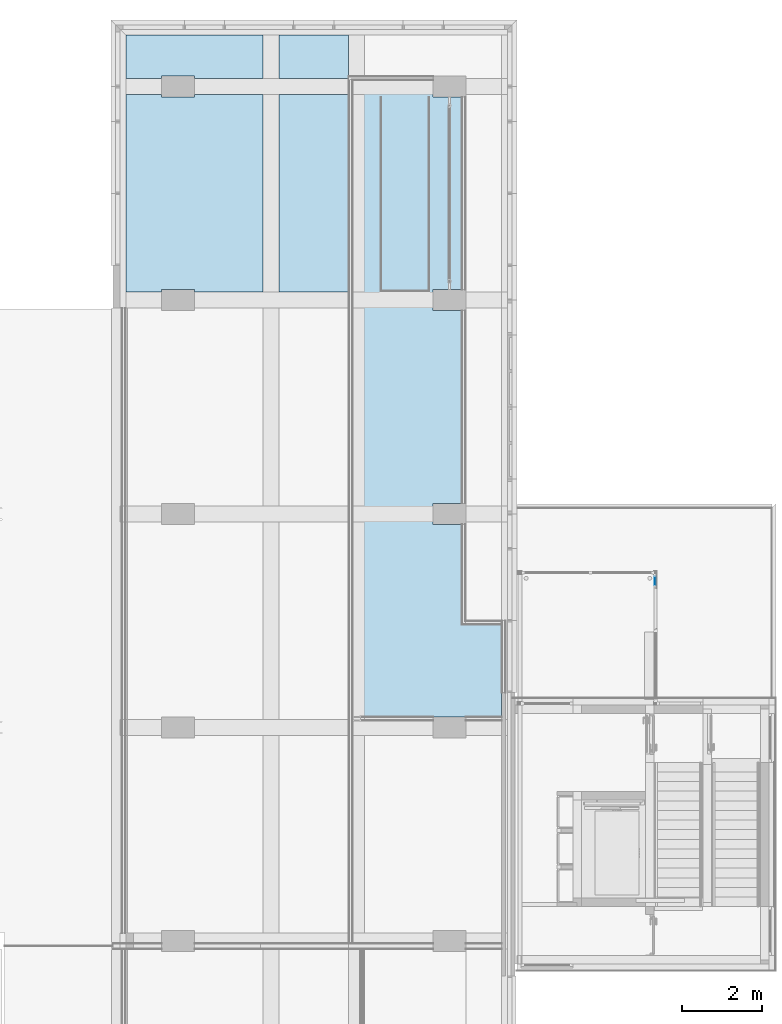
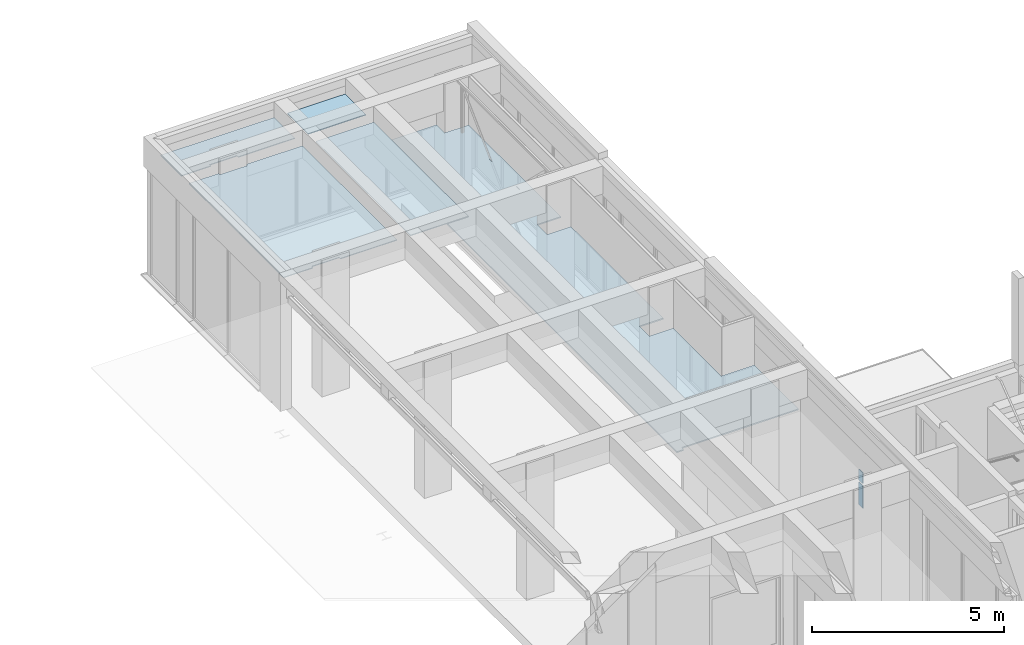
# One storey, part 36 of 117: 5 slabs, 2 plates, 1 element without a shape of its own.
"""IFC2X3 building model written with IfcOpenShell, lengths in millimetres."""

from ifc_helpers import new_model, entity, si_unit, converted_unit, derived_unit, money_unit, direction, frame, origin_with_axes, place, context, subcontext, project, spatial, faceted_brep, material, type_object, element, aggregate, save


model = new_model("IFC2X3")

# Units and contexts
model_context = context("Model", 3, precision=0.01, world=origin_with_axes(), true_north=direction((0.0, 1.0)))
body_context = subcontext(model_context, "Body", "Model", "MODEL_VIEW")
ifc_project = project(units=[si_unit("LENGTHUNIT", "METRE", prefix="MILLI"), si_unit("AREAUNIT", "SQUARE_METRE"), si_unit("VOLUMEUNIT", "CUBIC_METRE"), converted_unit("PLANEANGLEUNIT", "DEGREE", entity("IfcPlaneAngleMeasure", 0.0174532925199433), si_unit("PLANEANGLEUNIT", "RADIAN"), dimensions=[0, 0, 0, 0, 0, 0, 0]), money_unit("EUR"), converted_unit("TIMEUNIT", "Year", entity("IfcTimeMeasure", 31557600.0), si_unit("TIMEUNIT", "SECOND"), dimensions=[0, 0, 1, 0, 0, 0, 0]), si_unit("MASSUNIT", "GRAM", prefix="KILO"), si_unit("THERMODYNAMICTEMPERATUREUNIT", "DEGREE_CELSIUS"), si_unit("LUMINOUSINTENSITYUNIT", "LUMEN"), si_unit("ENERGYUNIT", "JOULE", prefix="MEGA"), derived_unit("THERMALCONDUCTANCEUNIT", [(si_unit("POWERUNIT", "WATT"), 1), (si_unit("LENGTHUNIT", "METRE"), -1), (si_unit("THERMODYNAMICTEMPERATUREUNIT", "KELVIN"), -1)]), derived_unit("SPECIFICHEATCAPACITYUNIT", [(si_unit("ENERGYUNIT", "JOULE"), 1), (si_unit("MASSUNIT", "GRAM", prefix="KILO"), -1), (si_unit("THERMODYNAMICTEMPERATUREUNIT", "KELVIN"), -1)]), derived_unit("MASSDENSITYUNIT", [(si_unit("MASSUNIT", "GRAM", prefix="KILO"), 1), (si_unit("VOLUMEUNIT", "CUBIC_METRE"), -1)])], contexts=[model_context])

# Site, building, storey
site_placement = place(None, origin_with_axes())
site = spatial("IfcSite", under=ifc_project, at=site_placement, Name="Site", CompositionType="ELEMENT")
building_placement = place(site_placement, origin_with_axes())
building = spatial("IfcBuilding", under=site, at=building_placement, Name="Naam gebouw", CompositionType="ELEMENT")
storey_placement = place(building_placement, frame((0.0, 0.0, 4150.0), z_axis=(0.0, 0.0, 1.0), x_axis=(1.0, 0.0, 0.0)))
storey = spatial("IfcBuildingStorey", under=building, at=storey_placement, Name="1e verdieping N", CompositionType="ELEMENT", Elevation=4150.0)

# Slabs
ifc_material_1 = material(Name="ALG - BINNENAFWERKING")
slab_type_1 = type_object("IfcSlabType", Name="ALG - BINNENAFWERKING 40", PredefinedType="NOTDEFINED")
slab_1_placement = place(storey_placement, frame((26091.99996408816, 54868.4124251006, 2760.0), z_axis=(0.0, 0.0, 1.0), x_axis=(1.0, 0.0, 0.0)))
element("IfcSlab", 1, at=slab_1_placement, inside=storey, type_object=slab_type_1, material=ifc_material_1, Name="_Vloer-x", PredefinedType="NOTDEFINED", context=body_context, shape_type="Brep", body=[
    faceted_brep([(2824.000035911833, -11185.0, 40.00000000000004), (2104.000035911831, -11185.0, 40.00000000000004), (2104.000035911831, -10660.0, 40.00000000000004), (2824.000035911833, -10660.0, 40.00000000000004), (2824.000035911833, -5855.000000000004, 40.00000000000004), (2104.000035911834, -5855.000000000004, 40.00000000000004), (2104.000035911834, -5329.999999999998, 40.00000000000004), (2824.000035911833, -5329.999999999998, 40.00000000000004), (2824.000035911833, -525.0000000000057, 40.00000000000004), (2104.000035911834, -525.0000000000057, 40.00000000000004), (2104.000035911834, -100.0000000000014, 40.00000000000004), (100.0000000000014, -100.0000000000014, 40.00000000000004), (99.99999999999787, -16090.0, 40.00000000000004), (300.0000359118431, -16090.0, 40.00000000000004), (300.0000359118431, -15989.99999999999, 40.00000000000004), (3814.000035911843, -15989.99999999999, 40.00000000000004), (3814.000035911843, -13687.50000000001, 40.00000000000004), (2836.500035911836, -13687.50000000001, 40.00000000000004), (2824.000035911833, -13687.50000000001, 40.00000000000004), (2526.500035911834, -2135.108802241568, 40.00000000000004), (2526.500035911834, -2278.660287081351, 40.00000000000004), (2516.500035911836, -2278.660287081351, 40.00000000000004), (2516.500035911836, -2135.108802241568, 40.00000000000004), (2511.500035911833, -3576.33971291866, 40.00000000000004), (2511.500035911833, -3719.89119775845, 40.00000000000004), (2501.500035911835, -3719.89119775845, 40.00000000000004), (2501.500035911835, -3576.33971291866, 40.00000000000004), (2104.000035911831, -11185.0, 0.0), (2824.000035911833, -11185.0, 0.0), (2104.000035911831, -10660.0, 0.0), (2824.000035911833, -10660.0, 0.0), (2824.000035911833, -5855.000000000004, 0.0), (2104.000035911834, -5855.000000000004, 0.0), (2104.000035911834, -5329.999999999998, 0.0), (2824.000035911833, -5329.999999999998, 0.0), (2824.000035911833, -525.0000000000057, 0.0), (2104.000035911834, -525.0000000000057, 0.0), (2104.000035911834, -100.0000000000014, 0.0), (100.0000000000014, -100.0000000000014, 0.0), (99.99999999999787, -16090.0, 0.0), (300.0000359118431, -16090.0, 0.0), (300.0000359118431, -15989.99999999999, 0.0), (3814.000035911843, -15989.99999999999, 0.0), (3814.000035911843, -13687.50000000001, 0.0), (2836.500035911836, -13687.50000000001, 0.0), (2824.000035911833, -13687.50000000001, 0.0), (2526.500035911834, -2176.304974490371, 0.0), (2526.500035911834, -2319.856459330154, 0.0), (2516.500035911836, -2319.856459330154, 0.0), (2516.500035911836, -2176.304974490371, 0.0), (2511.500035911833, -3535.143540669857, 0.0), (2511.500035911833, -3678.69502550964, 0.0), (2501.500035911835, -3678.69502550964, 0.0), (2501.500035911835, -3535.143540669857, 0.0)], [[[0, 1, 2, 3, 4, 5, 6, 7, 8, 9, 10, 11, 12, 13, 14, 15, 16, 17, 18], [19, 20, 21, 22], [23, 24, 25, 26]], [[27, 1, 0, 28]], [[29, 2, 1, 27]], [[29, 30, 3, 2]], [[4, 3, 30, 31]], [[32, 5, 4, 31]], [[33, 6, 5, 32]], [[33, 34, 7, 6]], [[8, 7, 34, 35]], [[36, 9, 8, 35]], [[36, 37, 10, 9]], [[11, 10, 37, 38]], [[11, 38, 39, 12]], [[39, 40, 13, 12]], [[40, 41, 14, 13]], [[41, 42, 15, 14]], [[16, 15, 42, 43]], [[16, 43, 44, 17]], [[44, 45, 18, 17]], [[45, 28, 0, 18]], [[46, 47, 20, 19]], [[47, 48, 21, 20]], [[48, 49, 22, 21]], [[49, 46, 19, 22]], [[24, 23, 50, 51]], [[25, 24, 51, 52]], [[26, 25, 52, 53]], [[23, 26, 53, 50]], [[29, 27, 28, 45, 44, 43, 42, 41, 40, 39, 38, 37, 36, 35, 34, 33, 32, 31, 30], [46, 49, 48, 47], [50, 53, 52, 51]]]),
])
slab_type_2 = type_object("IfcSlabType", Name="ALG - BINNENAFWERKING 25", PredefinedType="NOTDEFINED")
slab_2_placement = place(storey_placement, frame((24349.99999999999, 49475.9124251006, 3815.0), z_axis=(0.0, 0.0, 1.0), x_axis=(1.0, 0.0, 0.0)))
element("IfcSlab", 2, at=slab_2_placement, inside=storey, type_object=slab_type_2, material=ifc_material_1, Name="_Vloer-x", PredefinedType="NOTDEFINED", context=body_context, shape_type="Brep", body=[
    faceted_brep([(0.0, 0.0, 25.00000000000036), (0.0, 0.0, 0.0), (1741.999964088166, 0.0, 0.0), (1741.999964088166, 0.0, 25.00000000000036), (0.0, 4929.999999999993, 25.00000000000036), (0.0, 4929.999999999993, 0.0), (1741.999964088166, 4929.999999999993, 0.0), (1741.999964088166, 4929.999999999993, 25.00000000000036)], [[[0, 1, 2, 3]], [[4, 5, 1, 0]], [[2, 1, 5, 6]], [[3, 2, 6, 7]], [[4, 0, 3, 7]], [[7, 6, 5, 4]]]),
])
slab_3_placement = place(storey_placement, frame((26092.0, 55885.91556495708, 3815.0), z_axis=(0.0, 0.0, 1.0), x_axis=(1.0, 0.0, 0.0)))
element("IfcSlab", 3, at=slab_3_placement, inside=storey, type_object=slab_type_2, material=ifc_material_1, Name="_Vloer-x", PredefinedType="NOTDEFINED", context=body_context, shape_type="Brep", body=[
    faceted_brep([(-1742.000000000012, 0.0, 25.00000000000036), (0.0, 0.0, 25.00000000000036), (0.0, 0.0, 0.0), (-1742.000000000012, 0.0, 0.0), (-1742.000000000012, -1080.00313985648, 25.00000000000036), (0.0, -1080.00313985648, 25.00000000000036), (0.0, -1080.00313985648, 0.0), (-1742.000000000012, -1080.00313985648, 0.0)], [[[0, 1, 2, 3]], [[4, 5, 1, 0]], [[1, 5, 6, 2]], [[7, 3, 2, 6]], [[4, 0, 3, 7]], [[5, 4, 7, 6]]]),
])
slab_4_placement = place(storey_placement, frame((20536.00000000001, 49475.9124251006, 3815.0), z_axis=(0.0, 0.0, 1.0), x_axis=(1.0, 0.0, 0.0)))
element("IfcSlab", 4, at=slab_4_placement, inside=storey, type_object=slab_type_2, material=ifc_material_1, Name="_Vloer-x", PredefinedType="NOTDEFINED", context=body_context, shape_type="Brep", body=[
    faceted_brep([(0.0, 0.0, 25.00000000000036), (0.0, 0.0, 0.0), (889.9999999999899, 0.0, 0.0), (889.9999999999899, 0.0, 25.00000000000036), (0.0, 4929.999999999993, 25.00000000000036), (0.0, 4929.999999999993, 0.0), (889.9999999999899, 4929.999999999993, 0.0), (889.9999999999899, 4867.499999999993, 0.0), (1709.99999999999, 4867.499999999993, 0.0), (1709.99999999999, 4929.999999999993, 0.0), (3413.99999999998, 4929.999999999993, 0.0), (3413.99999999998, 0.0, 0.0), (1709.99999999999, 0.0, 0.0), (1709.99999999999, 62.5, 0.0), (889.9999999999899, 62.5, 0.0), (889.9999999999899, 62.5, 25.00000000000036), (1709.99999999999, 62.5, 25.00000000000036), (1709.99999999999, 0.0, 25.00000000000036), (3413.99999999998, 0.0, 25.00000000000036), (3413.99999999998, 4929.999999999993, 25.00000000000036), (1709.99999999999, 4929.999999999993, 25.00000000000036), (1709.99999999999, 4867.499999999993, 25.00000000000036), (889.9999999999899, 4867.499999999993, 25.00000000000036), (889.9999999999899, 4929.999999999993, 25.00000000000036)], [[[0, 1, 2, 3]], [[4, 5, 1, 0]], [[2, 1, 5, 6, 7, 8, 9, 10, 11, 12, 13, 14]], [[3, 2, 14, 15]], [[4, 0, 3, 15, 16, 17, 18, 19, 20, 21, 22, 23]], [[23, 6, 5, 4]], [[22, 7, 6, 23]], [[21, 8, 7, 22]], [[20, 9, 8, 21]], [[19, 10, 9, 20]], [[18, 11, 10, 19]], [[17, 12, 11, 18]], [[16, 13, 12, 17]], [[15, 14, 13, 16]]]),
])
slab_5_placement = place(storey_placement, frame((20536.00000000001, 54805.9124251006, 3815.0), z_axis=(0.0, 0.0, 1.0), x_axis=(1.0, 0.0, 0.0)))
element("IfcSlab", 5, at=slab_5_placement, inside=storey, type_object=slab_type_2, material=ifc_material_1, Name="_Vloer-x", PredefinedType="NOTDEFINED", context=body_context, shape_type="Brep", body=[
    faceted_brep([(0.0, 0.0, 25.00000000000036), (0.0, 0.0, 0.0), (889.9999999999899, 0.0, 0.0), (889.9999999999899, 0.0, 25.00000000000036), (0.0, 1079.976833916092, 25.00000000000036), (0.0, 1079.976833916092, 0.0), (3413.99999999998, 1079.993715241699, 0.0), (3413.99999999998, 0.0, 0.0), (1709.99999999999, 0.0, 0.0), (1709.99999999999, 62.5, 0.0), (889.9999999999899, 62.5, 0.0), (889.9999999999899, 62.5, 25.00000000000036), (1709.99999999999, 62.5, 25.00000000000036), (1709.99999999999, 0.0, 25.00000000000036), (3413.99999999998, 0.0, 25.00000000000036), (3413.99999999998, 1079.993715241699, 25.00000000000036)], [[[0, 1, 2, 3]], [[4, 5, 1, 0]], [[2, 1, 5, 6, 7, 8, 9, 10]], [[3, 2, 10, 11]], [[4, 0, 3, 11, 12, 13, 14, 15]], [[15, 6, 5, 4]], [[14, 7, 6, 15]], [[13, 8, 7, 14]], [[12, 9, 8, 13]], [[11, 10, 9, 12]]]),
])

# Curtain wall, plates
curtain_wall_type = type_object("IfcCurtainWallType", Name="Curtain Wall:21_CW_alu kozijn 070x065", PredefinedType="NOTDEFINED")
curtain_wall_placement = place(storey_placement, frame((0.0, 0.0, -4150.0), z_axis=(0.0, 0.0, 1.0), x_axis=(1.0, 0.0, 0.0)))
curtain_wall = element("IfcCurtainWall", 6, at=curtain_wall_placement, inside=storey, type_object=curtain_wall_type, Name="Curtain Wall:21_CW_alu kozijn 070x065", ObjectType="Curtain Wall:21_CW_alu kozijn 070x065")
ifc_material_2 = material(Name="Glass")
plate_type_1 = type_object("IfcPlateType", Name="System Panel:31_CWP_alu glas_2", PredefinedType="CURTAIN_PANEL")
plate_1_placement = place(curtain_wall_placement, frame((33745.50000004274, 42269.51242634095, 1238.299999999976), z_axis=(0.0, 0.0, 1.0), x_axis=(0.0, 1.0, 0.0)))
plate_1 = element("IfcPlate", 7, at=plate_1_placement, type_object=plate_type_1, material=ifc_material_2, Name="System Panel:31_CWP_alu glas_2", ObjectType="CURTAIN_PANEL", context=body_context, shape_type="Brep", body=[
    faceted_brep([(104.8999999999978, -12.00000000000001, 0.0), (104.8999999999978, 11.99999999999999, 0.0), (104.8999999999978, 11.99999999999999, 339.5000000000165), (104.8999999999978, -12.00000000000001, 339.5000000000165), (-104.8999999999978, -11.99999999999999, 0.0), (-104.8999999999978, 12.00000000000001, 0.0), (-104.8999999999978, 12.00000000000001, 339.5000000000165), (-104.8999999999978, -11.99999999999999, 339.5000000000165)], [[[0, 1, 2, 3]], [[0, 4, 5, 1]], [[1, 5, 6, 2]], [[3, 2, 6, 7]], [[4, 0, 3, 7]], [[5, 4, 7, 6]]]),
])
plate_type_2 = type_object("IfcPlateType", Name="System Panel:31_CWP_alu glas_2", PredefinedType="CURTAIN_PANEL")
plate_2_placement = place(curtain_wall_placement, frame((33745.50000004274, 42269.51242634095, 450.0000000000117), z_axis=(0.0, 0.0, 1.0), x_axis=(0.0, 1.0, 0.0)))
plate_2 = element("IfcPlate", 8, at=plate_2_placement, type_object=plate_type_2, material=ifc_material_2, Name="System Panel:31_CWP_alu glas_2", ObjectType="CURTAIN_PANEL", context=body_context, shape_type="Brep", body=[
    faceted_brep([(104.8999999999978, -12.00000000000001, 0.0), (104.8999999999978, 11.99999999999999, 0.0), (104.8999999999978, 11.99999999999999, 718.3000000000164), (104.8999999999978, -12.00000000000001, 718.3000000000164), (-104.8999999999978, -11.99999999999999, 0.0), (-104.8999999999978, 12.00000000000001, 0.0), (-104.8999999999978, 12.00000000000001, 718.3000000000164), (-104.8999999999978, -11.99999999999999, 718.3000000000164)], [[[0, 1, 2, 3]], [[0, 4, 5, 1]], [[1, 5, 6, 2]], [[3, 2, 6, 7]], [[4, 0, 3, 7]], [[5, 4, 7, 6]]]),
])
aggregate(curtain_wall, [plate_1, plate_2])

save(model, "model.ifc")
